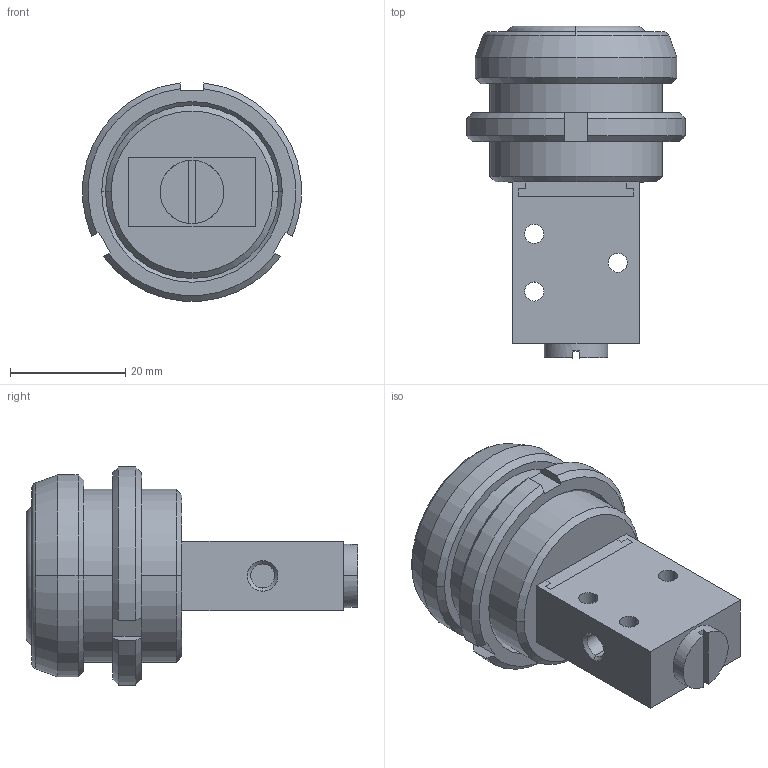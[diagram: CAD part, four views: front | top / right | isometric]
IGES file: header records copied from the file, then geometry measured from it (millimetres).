
Global section: file name: No Iges File Name specified; native system: AutoDesk Inventor R12.0; preprocessor: AutoDesk Inventor Iges Exporter R12.0; date: 20080225.141200; units: millimetre
Bounding box: 37.89 x 57.5 x 37.82 mm (x, y, z)
Volume: 29730.7 mm3; surface area: 9313.2 mm2
Topology: 3 solids, 3 shells, 95 faces, 233 edges, 151 vertices
Faces by surface type: plane 43, bspline 19, cone 12, cylinder 9, revolution 8, torus 4
